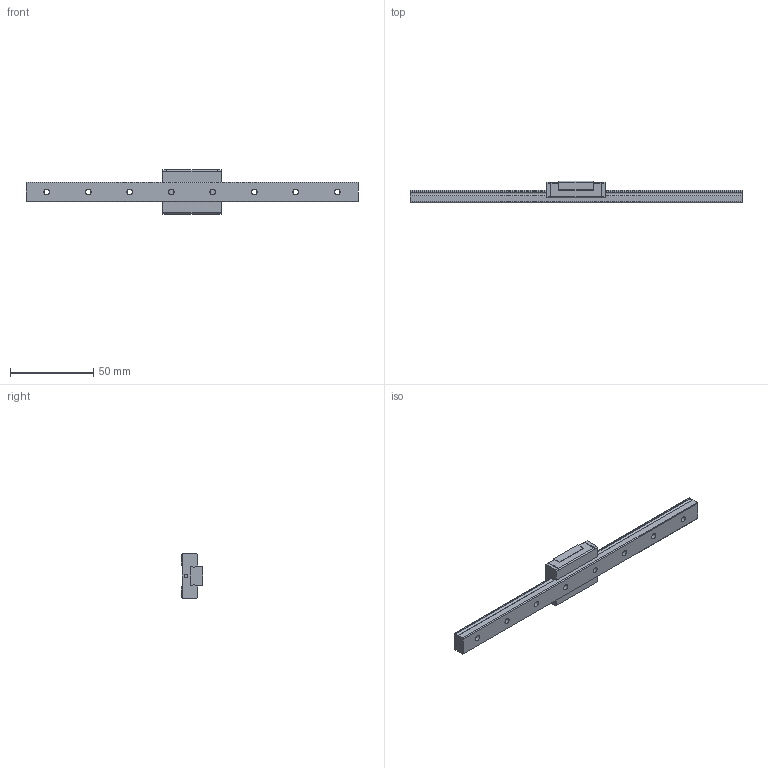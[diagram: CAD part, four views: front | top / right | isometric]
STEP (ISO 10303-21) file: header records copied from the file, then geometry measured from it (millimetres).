
FILE_DESCRIPTION(/* description */ ('STEP AP203'),/* implementation_level */ '2;1');
FILE_NAME(/* name */ 'RSX12MUU-200LM_G12-5_0_Without grease nipple_82-5_0_0_0_1',/* time_stamp */ '2024-05-21T10:25:38+02:00',/* author */ ('License CC BY-ND 4.0'),/* organization */ ('CADENAS'),/* preprocessor_version */ 'ST-DEVELOPER v19.3',/* originating_system */ 'PARTsolutions',/* authorisation */ ' ');
FILE_SCHEMA (('CONFIG_CONTROL_DESIGN'));
Length unit declared in the file: millimetre
Products named in the file (3): RSX12MUU-200LM_G12-5_0_Without grease nipple_82-5_0_0_0_1; RSX12M20012.5 Track; RSX12MUU1 Slider
Assembly tree (2 placements, depth 2):
  RSX12MUU-200LM_G12-5_0_Without grease nipple_82-5_0_0_0_1
    RSX12M20012.5 Track
    RSX12MUU1 Slider
Bounding box: 200 x 13 x 27 mm (x, y, z)
Volume: 23240.3 mm3; surface area: 12268.1 mm2
Topology: 2 solids, 2 shells, 116 faces, 302 edges, 200 vertices
Faces by surface type: plane 74, cylinder 34, cone 8
Full cylindrical faces by diameter (mm): 2 x2, 2.459 x4, 3.5 x8, 6 x8
Entity records: 3447 total; most frequent: CARTESIAN_POINT 579, DIRECTION 574, ORIENTED_EDGE 528, EDGE_CURVE 264, VERTEX_POINT 196, LINE 192, VECTOR 192, AXIS2_PLACEMENT_3D 191
